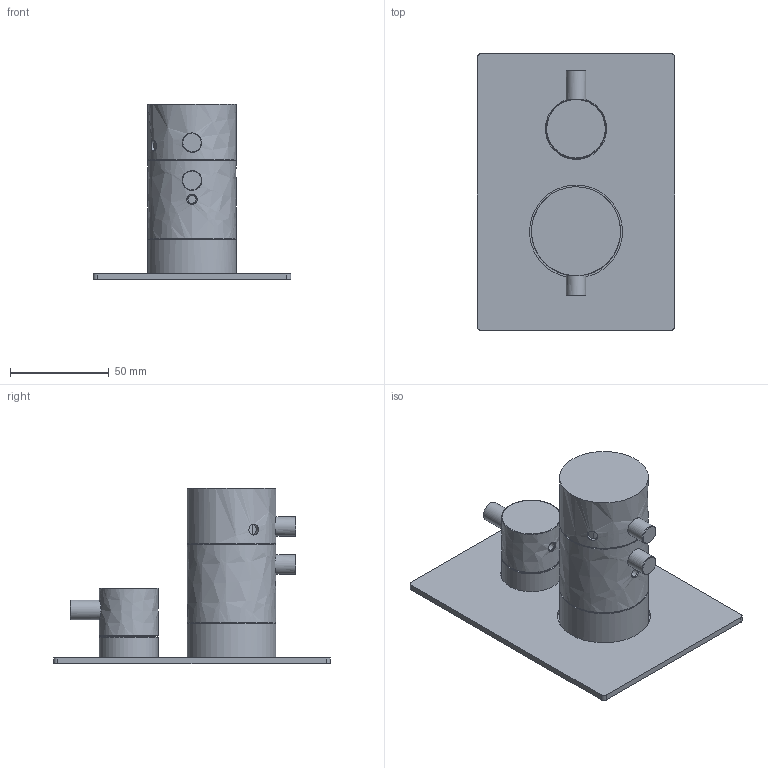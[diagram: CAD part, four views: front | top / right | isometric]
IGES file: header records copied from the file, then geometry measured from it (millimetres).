
Global section: file name: PR28HD111; native system: Autodesk Inventor 2017; preprocessor: unknown; author: PIZZERA; date: 20210409.072025; units: millimetre
Bounding box: 100 x 140 x 88.99 mm (x, y, z)
Volume: 205779.6 mm3; surface area: 47988 mm2
Topology: 1 solids, 1 shells, 61 faces, 139 edges, 94 vertices
Faces by surface type: bspline 61
